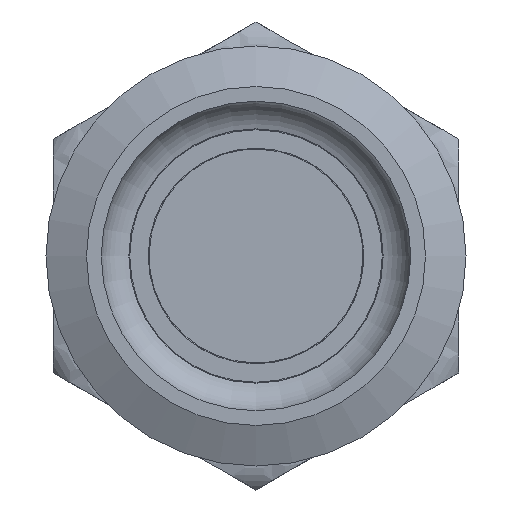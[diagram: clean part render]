
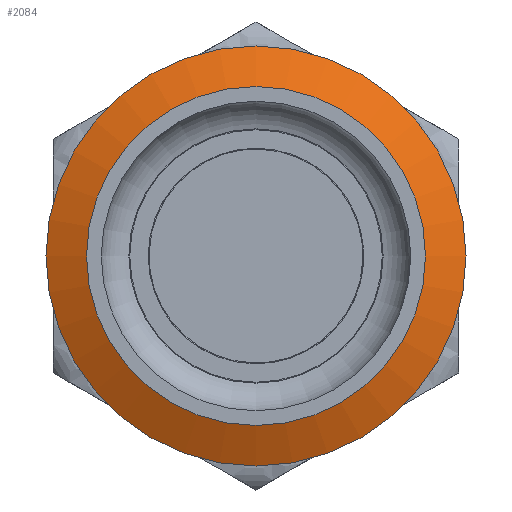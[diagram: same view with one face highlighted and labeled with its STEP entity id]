
A CAD part, left-side view. The second image highlights one B-rep face of the part: STEP entity #2084.
In plain terms, the highlighted conical face has half-angle 65.556 degrees and reference radius 11.4 mm.
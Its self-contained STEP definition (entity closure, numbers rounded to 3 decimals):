
#108=CONICAL_SURFACE('',#10794,11.4,65.556);
#1425=FACE_BOUND('',#3307,.T.);
#1426=FACE_BOUND('',#3308,.T.);
#1585=CIRCLE('',#10791,11.4);
#1586=CIRCLE('',#10793,9.2);
#2084=ADVANCED_FACE('',(#1425,#1426),#108,.T.);
#3307=EDGE_LOOP('',(#4907));
#3308=EDGE_LOOP('',(#4908));
#4907=ORIENTED_EDGE('',*,*,#7838,.T.);
#4908=ORIENTED_EDGE('',*,*,#7837,.F.);
#6719=VERTEX_POINT('',#19803);
#6720=VERTEX_POINT('',#19806);
#7837=EDGE_CURVE('',#6719,#6719,#1585,.T.);
#7838=EDGE_CURVE('',#6720,#6720,#1586,.T.);
#10791=AXIS2_PLACEMENT_3D('',#19802,#12486,#12487);
#10793=AXIS2_PLACEMENT_3D('',#19805,#12490,#12491);
#10794=AXIS2_PLACEMENT_3D('',#19807,#12492,#12493);
#12486=DIRECTION('',(1.,0.,0.));
#12487=DIRECTION('',(0.,1.,0.));
#12490=DIRECTION('',(1.,0.,0.));
#12491=DIRECTION('',(0.,1.,0.));
#12492=DIRECTION('',(1.,0.,0.));
#12493=DIRECTION('',(0.,1.,0.));
#19802=CARTESIAN_POINT('',(-22.7,0.,49.98));
#19803=CARTESIAN_POINT('',(-22.7,11.4,49.98));
#19805=CARTESIAN_POINT('',(-23.7,0.,49.98));
#19806=CARTESIAN_POINT('',(-23.7,9.2,49.98));
#19807=CARTESIAN_POINT('',(-22.7,0.,49.98));
